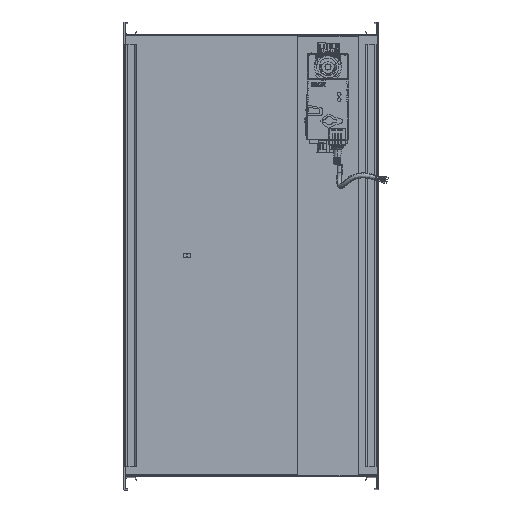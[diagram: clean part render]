
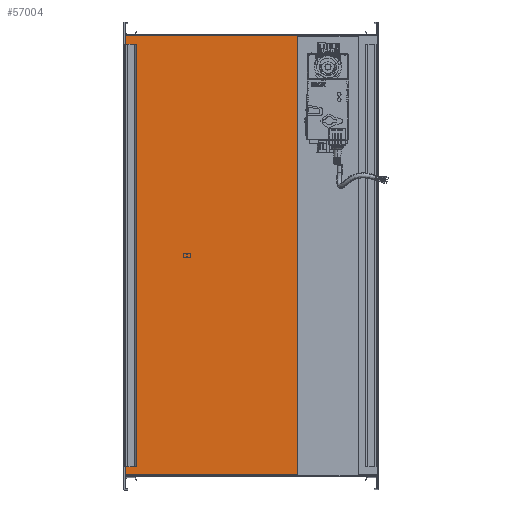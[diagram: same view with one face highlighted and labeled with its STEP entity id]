
A CAD part, top view. The second image highlights one B-rep face of the part: STEP entity #57004.
In plain terms, the highlighted planar face has unit normal (0, 0, 1).
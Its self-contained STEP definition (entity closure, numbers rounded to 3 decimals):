
#3430 = LINE ( 'NONE', #32813, #47627 ) ;
#6204 = LINE ( 'NONE', #44216, #80087 ) ;
#6322 = AXIS2_PLACEMENT_3D ( 'NONE', #77139, #84356, #77620 ) ;
#13339 = VERTEX_POINT ( 'NONE', #66729 ) ;
#14896 = CARTESIAN_POINT ( 'NONE',  ( -244.423, 362.152, 1600. ) ) ;
#18380 = DIRECTION ( 'NONE',  ( 0., -1., 0. ) ) ;
#19293 = ORIENTED_EDGE ( 'NONE', *, *, #35387, .F. ) ;
#19326 = FACE_OUTER_BOUND ( 'NONE', #74230, .T. ) ;
#20641 = ORIENTED_EDGE ( 'NONE', *, *, #26412, .T. ) ;
#24732 = CARTESIAN_POINT ( 'NONE',  ( 28.308, -333.848, 1600. ) ) ;
#25501 = CARTESIAN_POINT ( 'NONE',  ( -244.423, -333.848, 1600. ) ) ;
#26412 = EDGE_CURVE ( 'NONE', #47463, #75377, #3430, .T. ) ;
#28254 = LINE ( 'NONE', #73049, #63567 ) ;
#32813 = CARTESIAN_POINT ( 'NONE',  ( -244.423, -333.848, 1600. ) ) ;
#33834 = VERTEX_POINT ( 'NONE', #24732 ) ;
#35387 = EDGE_CURVE ( 'NONE', #47463, #13339, #94914, .T. ) ;
#44216 = CARTESIAN_POINT ( 'NONE',  ( 28.308, -337.672, 1600. ) ) ;
#47463 = VERTEX_POINT ( 'NONE', #90868 ) ;
#47627 = VECTOR ( 'NONE', #18380, 1000. ) ;
#57004 = ADVANCED_FACE ( 'NONE', ( #19326 ), #61729, .T. ) ;
#57333 = DIRECTION ( 'NONE',  ( 1., 0., 0. ) ) ;
#58112 = DIRECTION ( 'NONE',  ( 1., 0., 0. ) ) ;
#58542 = ORIENTED_EDGE ( 'NONE', *, *, #78911, .F. ) ;
#59142 = DIRECTION ( 'NONE',  ( 0., -1., 0. ) ) ;
#61729 = PLANE ( 'NONE',  #6322 ) ;
#63567 = VECTOR ( 'NONE', #58112, 1000. ) ;
#66729 = CARTESIAN_POINT ( 'NONE',  ( 28.308, 362.152, 1600. ) ) ;
#73049 = CARTESIAN_POINT ( 'NONE',  ( -244.423, -333.848, 1600. ) ) ;
#74230 = EDGE_LOOP ( 'NONE', ( #87026, #58542, #19293, #20641 ) ) ;
#75377 = VERTEX_POINT ( 'NONE', #25501 ) ;
#75729 = EDGE_CURVE ( 'NONE', #75377, #33834, #28254, .T. ) ;
#75934 = VECTOR ( 'NONE', #57333, 1000. ) ;
#77139 = CARTESIAN_POINT ( 'NONE',  ( -244.423, -333.848, 1600. ) ) ;
#77620 = DIRECTION ( 'NONE',  ( 1., 0., 0. ) ) ;
#78911 = EDGE_CURVE ( 'NONE', #13339, #33834, #6204, .T. ) ;
#80087 = VECTOR ( 'NONE', #59142, 1000. ) ;
#84356 = DIRECTION ( 'NONE',  ( 0., 0., 1. ) ) ;
#87026 = ORIENTED_EDGE ( 'NONE', *, *, #75729, .T. ) ;
#90868 = CARTESIAN_POINT ( 'NONE',  ( -244.423, 362.152, 1600. ) ) ;
#94914 = LINE ( 'NONE', #14896, #75934 ) ;
